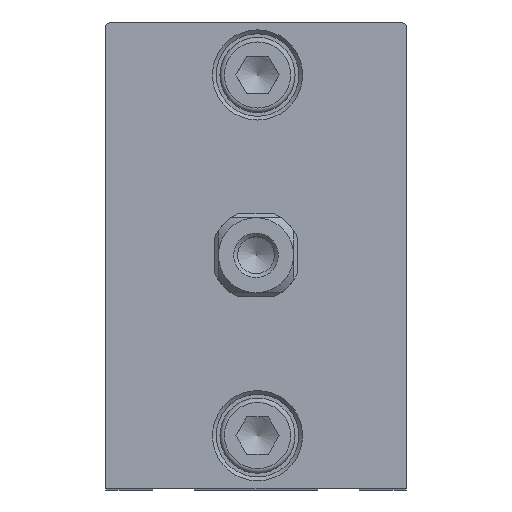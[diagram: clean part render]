
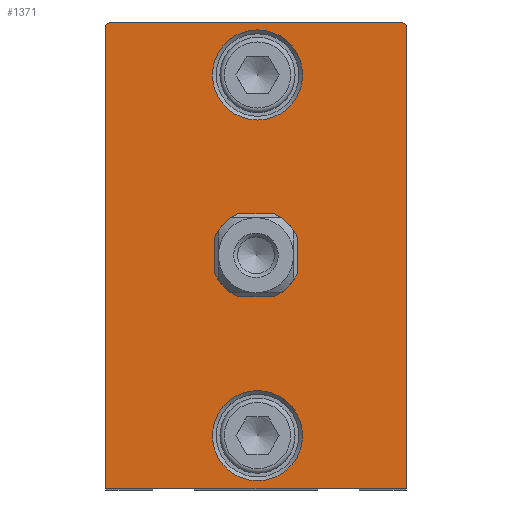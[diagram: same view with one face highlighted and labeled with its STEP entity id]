
A CAD part, top view. The second image highlights one B-rep face of the part: STEP entity #1371.
In plain terms, the highlighted planar face has unit normal (0, 0, 1).
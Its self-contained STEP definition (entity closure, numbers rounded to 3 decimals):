
#341=CARTESIAN_POINT('',(-11.483,31.05,16.0));
#342=VERTEX_POINT('',#341);
#349=CARTESIAN_POINT('',(27.517,31.05,16.0));
#350=VERTEX_POINT('',#349);
#351=CARTESIAN_POINT('',(-11.483,31.05,16.0));
#352=DIRECTION('',(1.0,0.0,0.0));
#353=VECTOR('',#352,39.0);
#354=LINE('',#351,#353);
#355=EDGE_CURVE('',#342,#350,#354,.T.);
#388=CARTESIAN_POINT('',(-11.983,30.55,16.0));
#389=VERTEX_POINT('',#388);
#396=CARTESIAN_POINT('',(-11.983,30.55,16.0));
#397=DIRECTION('',(0.707,0.707,0.0));
#398=VECTOR('',#397,0.707);
#399=LINE('',#396,#398);
#400=EDGE_CURVE('',#389,#342,#399,.T.);
#809=CARTESIAN_POINT('',(28.017,-31.05,16.0));
#810=VERTEX_POINT('',#809);
#817=CARTESIAN_POINT('',(-11.983,-31.05,16.0));
#818=VERTEX_POINT('',#817);
#819=CARTESIAN_POINT('',(28.017,-31.05,16.0));
#820=DIRECTION('',(-1.0,0.0,0.0));
#821=VECTOR('',#820,40.0);
#822=LINE('',#819,#821);
#823=EDGE_CURVE('',#810,#818,#822,.T.);
#847=CARTESIAN_POINT('',(-11.983,-31.05,16.0));
#848=DIRECTION('',(0.0,1.0,0.0));
#849=VECTOR('',#848,61.6);
#850=LINE('',#847,#849);
#851=EDGE_CURVE('',#818,#389,#850,.T.);
#1250=CARTESIAN_POINT('',(14.217,24.,16.0));
#1251=VERTEX_POINT('',#1250);
#1252=CARTESIAN_POINT('',(8.217,24.,16.0));
#1253=DIRECTION('',(0.0,0.0,1.0));
#1254=DIRECTION('',(-1.0,0.0,0.0));
#1255=AXIS2_PLACEMENT_3D('',#1252,#1253,#1254);
#1256=CIRCLE('',#1255,6.);
#1257=EDGE_CURVE('',#1251,#1251,#1256,.T.);
#1262=CARTESIAN_POINT('',(8.017,0.,16.0));
#1263=DIRECTION('',(0.0,0.0,1.0));
#1264=DIRECTION('',(1.0,0.0,0.0));
#1265=AXIS2_PLACEMENT_3D('',#1262,#1263,#1264);
#1266=PLANE('',#1265);
#1267=ORIENTED_EDGE('',*,*,#400,.F.);
#1268=ORIENTED_EDGE('',*,*,#851,.F.);
#1269=ORIENTED_EDGE('',*,*,#823,.F.);
#1270=CARTESIAN_POINT('',(28.017,30.55,16.0));
#1271=VERTEX_POINT('',#1270);
#1272=CARTESIAN_POINT('',(28.017,30.55,16.0));
#1273=DIRECTION('',(0.0,-1.0,0.0));
#1274=VECTOR('',#1273,61.6);
#1275=LINE('',#1272,#1274);
#1276=EDGE_CURVE('',#1271,#810,#1275,.T.);
#1277=ORIENTED_EDGE('',*,*,#1276,.F.);
#1278=CARTESIAN_POINT('',(27.517,31.05,16.0));
#1279=DIRECTION('',(0.707,-0.707,0.0));
#1280=VECTOR('',#1279,0.707);
#1281=LINE('',#1278,#1280);
#1282=EDGE_CURVE('',#350,#1271,#1281,.T.);
#1283=ORIENTED_EDGE('',*,*,#1282,.F.);
#1284=ORIENTED_EDGE('',*,*,#355,.F.);
#1285=EDGE_LOOP('',(#1267,#1268,#1269,#1277,#1283,#1284));
#1286=FACE_OUTER_BOUND('',#1285,.T.);
#1287=CARTESIAN_POINT('',(14.217,-24.,16.0));
#1288=VERTEX_POINT('',#1287);
#1289=CARTESIAN_POINT('',(8.217,-24.,16.0));
#1290=DIRECTION('',(0.0,0.0,1.0));
#1291=DIRECTION('',(-1.0,0.0,0.0));
#1292=AXIS2_PLACEMENT_3D('',#1289,#1290,#1291);
#1293=CIRCLE('',#1292,6.);
#1294=EDGE_CURVE('',#1288,#1288,#1293,.T.);
#1295=ORIENTED_EDGE('',*,*,#1294,.F.);
#1296=EDGE_LOOP('',(#1295));
#1297=FACE_BOUND('',#1296,.T.);
#1298=CARTESIAN_POINT('',(10.415,5.5,16.0));
#1299=VERTEX_POINT('',#1298);
#1300=CARTESIAN_POINT('',(13.517,2.398,16.0));
#1301=VERTEX_POINT('',#1300);
#1302=CARTESIAN_POINT('',(8.017,0.0,16.0));
#1303=DIRECTION('',(0.0,0.0,-1.0));
#1304=DIRECTION('',(0.0,1.0,0.0));
#1305=AXIS2_PLACEMENT_3D('',#1302,#1303,#1304);
#1306=CIRCLE('',#1305,6.);
#1307=EDGE_CURVE('',#1299,#1301,#1306,.T.);
#1308=ORIENTED_EDGE('',*,*,#1307,.T.);
#1309=CARTESIAN_POINT('',(13.517,-2.398,16.0));
#1310=VERTEX_POINT('',#1309);
#1311=CARTESIAN_POINT('',(13.517,-2.398,16.0));
#1312=DIRECTION('',(0.0,1.0,0.0));
#1313=VECTOR('',#1312,4.796);
#1314=LINE('',#1311,#1313);
#1315=EDGE_CURVE('',#1310,#1301,#1314,.T.);
#1316=ORIENTED_EDGE('',*,*,#1315,.F.);
#1317=CARTESIAN_POINT('',(10.415,-5.5,16.0));
#1318=VERTEX_POINT('',#1317);
#1319=CARTESIAN_POINT('',(8.017,0.0,16.0));
#1320=DIRECTION('',(0.0,0.0,-1.0));
#1321=DIRECTION('',(0.0,1.0,0.0));
#1322=AXIS2_PLACEMENT_3D('',#1319,#1320,#1321);
#1323=CIRCLE('',#1322,6.);
#1324=EDGE_CURVE('',#1310,#1318,#1323,.T.);
#1325=ORIENTED_EDGE('',*,*,#1324,.T.);
#1326=CARTESIAN_POINT('',(5.619,-5.5,16.0));
#1327=VERTEX_POINT('',#1326);
#1328=CARTESIAN_POINT('',(5.619,-5.5,16.0));
#1329=DIRECTION('',(1.0,0.0,0.0));
#1330=VECTOR('',#1329,4.796);
#1331=LINE('',#1328,#1330);
#1332=EDGE_CURVE('',#1327,#1318,#1331,.T.);
#1333=ORIENTED_EDGE('',*,*,#1332,.F.);
#1334=CARTESIAN_POINT('',(2.517,-2.398,16.0));
#1335=VERTEX_POINT('',#1334);
#1336=CARTESIAN_POINT('',(8.017,0.0,16.0));
#1337=DIRECTION('',(0.0,0.0,-1.0));
#1338=DIRECTION('',(0.0,1.0,0.0));
#1339=AXIS2_PLACEMENT_3D('',#1336,#1337,#1338);
#1340=CIRCLE('',#1339,6.);
#1341=EDGE_CURVE('',#1327,#1335,#1340,.T.);
#1342=ORIENTED_EDGE('',*,*,#1341,.T.);
#1343=CARTESIAN_POINT('',(2.517,2.398,16.0));
#1344=VERTEX_POINT('',#1343);
#1345=CARTESIAN_POINT('',(2.517,2.398,16.0));
#1346=DIRECTION('',(0.0,-1.0,0.0));
#1347=VECTOR('',#1346,4.796);
#1348=LINE('',#1345,#1347);
#1349=EDGE_CURVE('',#1344,#1335,#1348,.T.);
#1350=ORIENTED_EDGE('',*,*,#1349,.F.);
#1351=CARTESIAN_POINT('',(5.619,5.5,16.0));
#1352=VERTEX_POINT('',#1351);
#1353=CARTESIAN_POINT('',(8.017,0.0,16.0));
#1354=DIRECTION('',(0.0,0.0,-1.0));
#1355=DIRECTION('',(0.0,1.0,0.0));
#1356=AXIS2_PLACEMENT_3D('',#1353,#1354,#1355);
#1357=CIRCLE('',#1356,6.);
#1358=EDGE_CURVE('',#1344,#1352,#1357,.T.);
#1359=ORIENTED_EDGE('',*,*,#1358,.T.);
#1360=CARTESIAN_POINT('',(10.415,5.5,16.0));
#1361=DIRECTION('',(-1.0,0.0,0.0));
#1362=VECTOR('',#1361,4.796);
#1363=LINE('',#1360,#1362);
#1364=EDGE_CURVE('',#1299,#1352,#1363,.T.);
#1365=ORIENTED_EDGE('',*,*,#1364,.F.);
#1366=EDGE_LOOP('',(#1308,#1316,#1325,#1333,#1342,#1350,#1359,#1365));
#1367=FACE_BOUND('',#1366,.T.);
#1368=ORIENTED_EDGE('',*,*,#1257,.F.);
#1369=EDGE_LOOP('',(#1368));
#1370=FACE_BOUND('',#1369,.T.);
#1371=ADVANCED_FACE('',(#1286,#1297,#1367,#1370),#1266,.T.);
